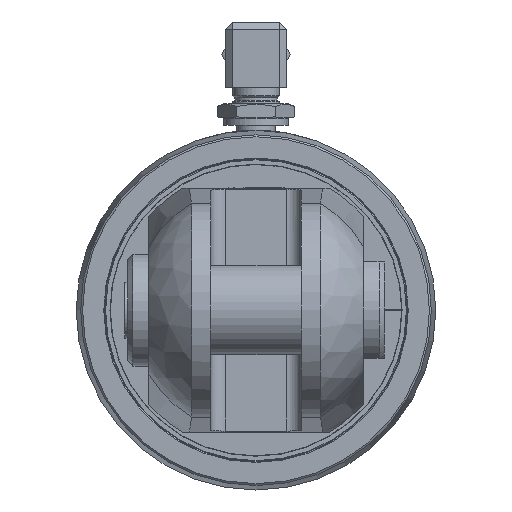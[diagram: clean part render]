
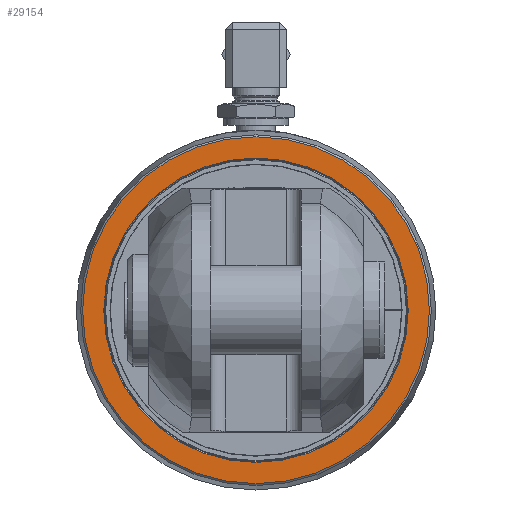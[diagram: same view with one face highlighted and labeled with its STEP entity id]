
A CAD part, left-side view. The second image highlights one B-rep face of the part: STEP entity #29154.
In plain terms, the highlighted planar face has unit normal (-1, 0, 0).
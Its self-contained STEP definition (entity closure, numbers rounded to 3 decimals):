
#162=CIRCLE('',#30876,49.288);
#164=CIRCLE('',#30880,43.25);
#1019=PLANE('',#30879);
#3497=FACE_BOUND('',#5527,.T.);
#3855=FACE_OUTER_BOUND('',#5526,.T.);
#5526=EDGE_LOOP('',(#21120));
#5527=EDGE_LOOP('',(#21121));
#13876=VERTEX_POINT('',#38058);
#13878=VERTEX_POINT('',#38064);
#16736=EDGE_CURVE('',#13876,#13876,#162,.T.);
#16738=EDGE_CURVE('',#13878,#13878,#164,.T.);
#21120=ORIENTED_EDGE('',*,*,#16736,.F.);
#21121=ORIENTED_EDGE('',*,*,#16738,.F.);
#29154=ADVANCED_FACE('',(#3855,#3497),#1019,.F.);
#30876=AXIS2_PLACEMENT_3D('',#38059,#32530,#32531);
#30879=AXIS2_PLACEMENT_3D('',#38063,#32536,#32537);
#30880=AXIS2_PLACEMENT_3D('',#38065,#32538,#32539);
#32530=DIRECTION('center_axis',(1.,0.,0.));
#32531=DIRECTION('ref_axis',(0.,-1.,0.));
#32536=DIRECTION('center_axis',(1.,0.,0.));
#32537=DIRECTION('ref_axis',(0.,0.,-1.));
#32538=DIRECTION('center_axis',(-1.,0.,0.));
#32539=DIRECTION('ref_axis',(0.,-1.,0.));
#38058=CARTESIAN_POINT('',(-435.5,49.288,0.));
#38059=CARTESIAN_POINT('Origin',(-435.5,0.,0.));
#38063=CARTESIAN_POINT('Origin',(-435.5,0.,0.));
#38064=CARTESIAN_POINT('',(-435.5,43.25,0.));
#38065=CARTESIAN_POINT('Origin',(-435.5,0.,0.));
